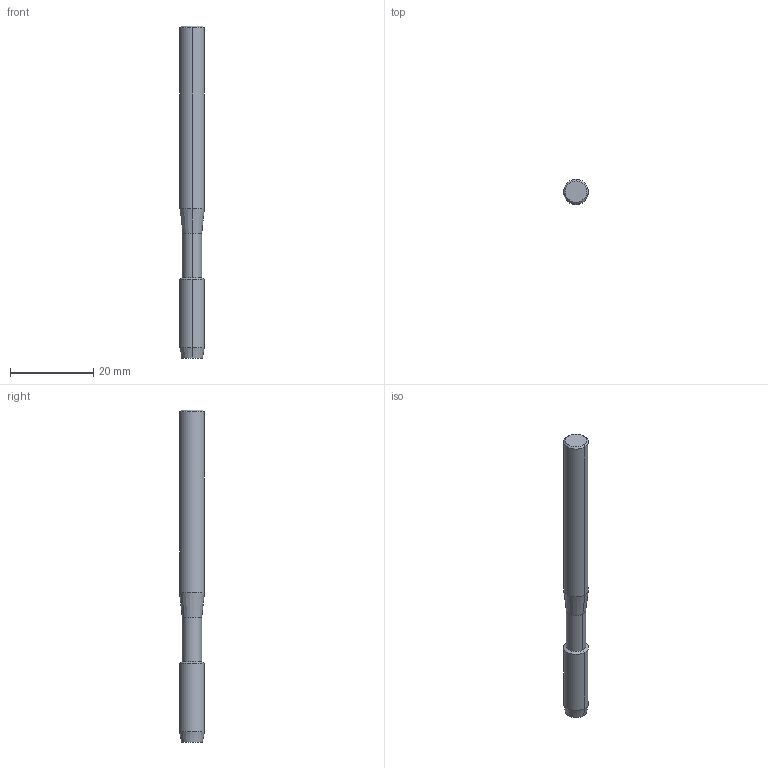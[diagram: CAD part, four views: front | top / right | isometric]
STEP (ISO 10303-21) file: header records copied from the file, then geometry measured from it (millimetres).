
FILE_DESCRIPTION(('no description'),'unknown implementation level');
FILE_NAME('solidtSm0wUkQLUjIcu8KucysgQkzNpI_1.STP',' ',('CIMSOURCE GmbH'),('CADClick - KiM GmbH - www.kimweb.de'),'unknown preprocess','ACIS','unknown authorization');
FILE_SCHEMA(('automotive_design'));
Length unit declared in the file: millimetre
Products named in the file (2): NOCUT; CUT
Bounding box: 6 x 6 x 80 mm (x, y, z)
Volume: 2098.3 mm3; surface area: 2013.8 mm2
Topology: 2 solids, 2 shells, 39 faces, 89 edges, 54 vertices
Faces by surface type: cylinder 18, cone 12, plane 9
Entity records: 2368 total; most frequent: CARTESIAN_POINT 403, DIRECTION 197, STYLED_ITEM 184, PRESENTATION_STYLE_ASSIGNMENT 184, COLOUR_RGB 184, ORIENTED_EDGE 178, EDGE_CURVE 89, CURVE_STYLE 89
